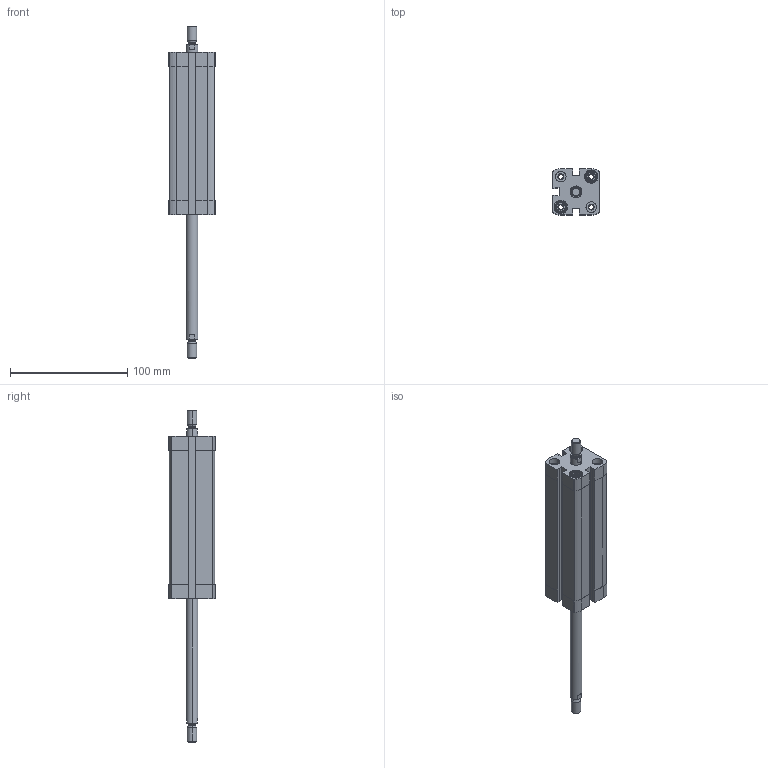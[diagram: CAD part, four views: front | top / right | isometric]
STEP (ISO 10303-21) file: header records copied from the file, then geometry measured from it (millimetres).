
FILE_DESCRIPTION (( 'STEP AP203' ), '1' );
FILE_NAME ('CCN25-100-P.STEP', '2020-06-22T18:44:19', ( '' ), ( '' ), 'SwSTEP 2.0', 'SolidWorks 2019', '' );
FILE_SCHEMA (( 'CONFIG_CONTROL_DESIGN' ));
Length unit declared in the file: millimetre
Products named in the file (1): CCN25-100-P
Bounding box: 39.5 x 39.5 x 283.5 mm (x, y, z)
Volume: 152348.8 mm3; surface area: 59868.7 mm2
Topology: 2 solids, 2 shells, 428 faces, 1120 edges, 728 vertices
Faces by surface type: plane 236, cylinder 140, cone 44, torus 8
Entity records: 13423 total; most frequent: CARTESIAN_POINT 2577, DIRECTION 2314, ORIENTED_EDGE 2240, EDGE_CURVE 1120, AXIS2_PLACEMENT_3D 865, VERTEX_POINT 728, VECTOR 584, LINE 584
